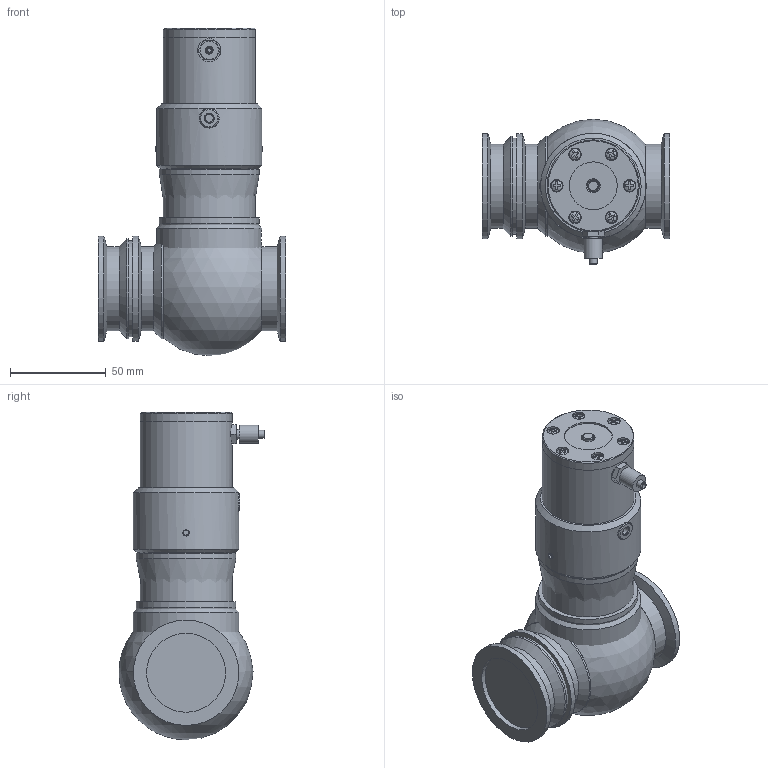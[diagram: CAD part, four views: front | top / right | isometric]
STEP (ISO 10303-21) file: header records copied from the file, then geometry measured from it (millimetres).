
FILE_DESCRIPTION( ( 'Unknown' ), '1' );
FILE_NAME( 'X:/Daten ( aktueller Bestand )/Projekte und Zeichnungen/Solid Edge/21 Eck + Durchgangsventile KF ISO-K, el.pneumatisch/VA/Durchgangsventil/NW40/Internet/313611.stp', 'Unknown', ( 'Unknown' ), ( 'Unknown' ), 'XStep 1.0', 'Unknown', ' ' );
FILE_SCHEMA( ( 'automotive_design' ) );
Length unit declared in the file: millimetre
Products named in the file (13): Assem1; 3036-1; 3036-2; 3036-4; 3036-3; 3104-1; 3102-2; 3102-3; 3102-4; 3102-5; Anschluss Festo; Schraube 3x8; M3x4
Bounding box: 98 x 76.2 x 171 mm (x, y, z)
Volume: 566589.4 mm3; surface area: 166900.8 mm2
Topology: 30 solids, 30 shells, 435 faces, 943 edges, 627 vertices
Faces by surface type: plane 235, cylinder 137, cone 52, sphere 11
Full cylindrical faces by diameter (mm): 2 x2, 2.459 x12, 2.8 x2, 3 x10, 3.242 x4, 3.3 x12, 4 x2, 4.134 x4, 5 x4, 5.793 x7, 6 x4, 6.3 x2, 6.5 x12, 9.518 x2, 10 x2, 10.3 x2, 12 x2, 12.5 x2, 12.812 x2, 20 x2, 25 x2, 26 x2, 33.739 x2, 37.97 x2, 40 x4, 41.2 x4, 42 x4, 44 x4, 47.5 x2, 48 x4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
Entity records: 4638 total; most frequent: CARTESIAN_POINT 1071, DIRECTION 718, ORIENTED_EDGE 428, AXIS2_PLACEMENT_3D 329, EDGE_LOOP 311, FACE_OUTER_BOUND 229, EDGE_CURVE 214, VERTEX_POINT 196
